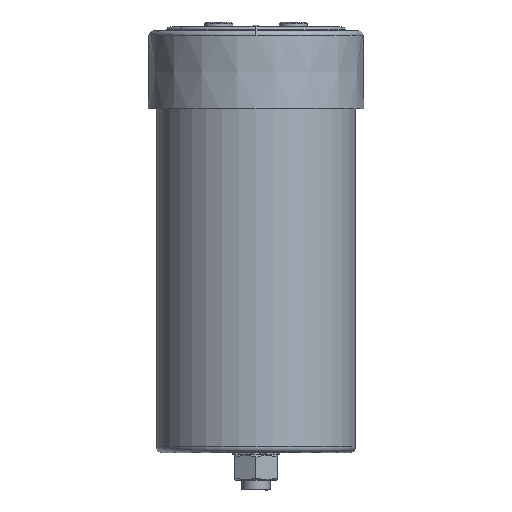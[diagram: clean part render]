
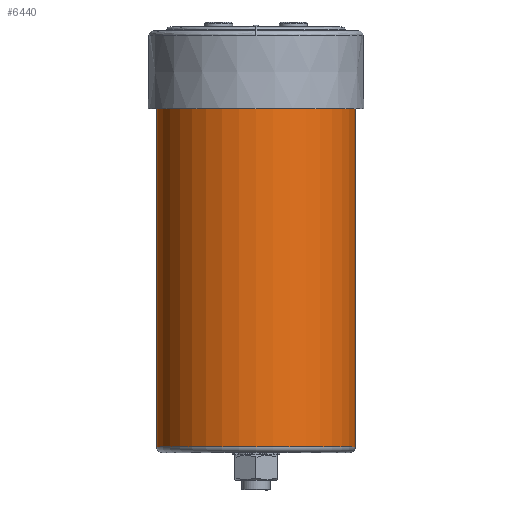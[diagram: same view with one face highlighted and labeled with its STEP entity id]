
A CAD part, left-side view. The second image highlights one B-rep face of the part: STEP entity #6440.
In plain terms, the highlighted cylindrical face has radius 42.5 mm (diameter 85 mm), a partial arc.
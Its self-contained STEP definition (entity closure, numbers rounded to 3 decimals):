
#31 = EDGE_CURVE ( 'NONE', #15880, #9121, #1046, .T. ) ;
#214 = EDGE_CURVE ( 'NONE', #15880, #575, #6164, .T. ) ;
#575 = VERTEX_POINT ( 'NONE', #13125 ) ;
#643 = CARTESIAN_POINT ( 'NONE',  ( 0., 0., -175. ) ) ;
#653 = CARTESIAN_POINT ( 'NONE',  ( 0., -42.5, -172.5 ) ) ;
#718 = DIRECTION ( 'NONE',  ( 0., 0., -1. ) ) ;
#1046 = LINE ( 'NONE', #11587, #13615 ) ;
#2044 = AXIS2_PLACEMENT_3D ( 'NONE', #11765, #2852, #4348 ) ;
#2610 = ORIENTED_EDGE ( 'NONE', *, *, #13837, .F. ) ;
#2671 = DIRECTION ( 'NONE',  ( 0., 0., -1. ) ) ;
#2676 = CARTESIAN_POINT ( 'NONE',  ( 0., 0., -172.5 ) ) ;
#2852 = DIRECTION ( 'NONE',  ( 0., 0., 1. ) ) ;
#3673 = DIRECTION ( 'NONE',  ( 0., -1., 0. ) ) ;
#4336 = EDGE_LOOP ( 'NONE', ( #5353, #9380, #7161, #2610 ) ) ;
#4348 = DIRECTION ( 'NONE',  ( 0., 1., 0. ) ) ;
#5353 = ORIENTED_EDGE ( 'NONE', *, *, #214, .F. ) ;
#5577 = AXIS2_PLACEMENT_3D ( 'NONE', #2676, #16040, #13080 ) ;
#6164 = CIRCLE ( 'NONE', #2044, 42.5 ) ;
#6440 = ADVANCED_FACE ( 'NONE', ( #7510 ), #18261, .T. ) ;
#6633 = VECTOR ( 'NONE', #718, 1000. ) ;
#7095 = VERTEX_POINT ( 'NONE', #653 ) ;
#7161 = ORIENTED_EDGE ( 'NONE', *, *, #10795, .T. ) ;
#7510 = FACE_OUTER_BOUND ( 'NONE', #4336, .T. ) ;
#8160 = DIRECTION ( 'NONE',  ( 0., 0., -1. ) ) ;
#8872 = CARTESIAN_POINT ( 'NONE',  ( 0., 42.5, 0. ) ) ;
#9121 = VERTEX_POINT ( 'NONE', #14889 ) ;
#9380 = ORIENTED_EDGE ( 'NONE', *, *, #31, .T. ) ;
#9690 = CIRCLE ( 'NONE', #5577, 42.5 ) ;
#10554 = LINE ( 'NONE', #18580, #6633 ) ;
#10795 = EDGE_CURVE ( 'NONE', #9121, #7095, #9690, .T. ) ;
#11587 = CARTESIAN_POINT ( 'NONE',  ( 0., 42.5, -175. ) ) ;
#11765 = CARTESIAN_POINT ( 'NONE',  ( 0., 0., 0. ) ) ;
#13080 = DIRECTION ( 'NONE',  ( 0., -1., 0. ) ) ;
#13125 = CARTESIAN_POINT ( 'NONE',  ( 0., -42.5, 0. ) ) ;
#13615 = VECTOR ( 'NONE', #2671, 1000. ) ;
#13837 = EDGE_CURVE ( 'NONE', #575, #7095, #10554, .T. ) ;
#14889 = CARTESIAN_POINT ( 'NONE',  ( 0., 42.5, -172.5 ) ) ;
#15880 = VERTEX_POINT ( 'NONE', #8872 ) ;
#16003 = AXIS2_PLACEMENT_3D ( 'NONE', #643, #8160, #3673 ) ;
#16040 = DIRECTION ( 'NONE',  ( 0., 0., 1. ) ) ;
#18261 = CYLINDRICAL_SURFACE ( 'NONE', #16003, 42.5 ) ;
#18580 = CARTESIAN_POINT ( 'NONE',  ( 0., -42.5, -175. ) ) ;
